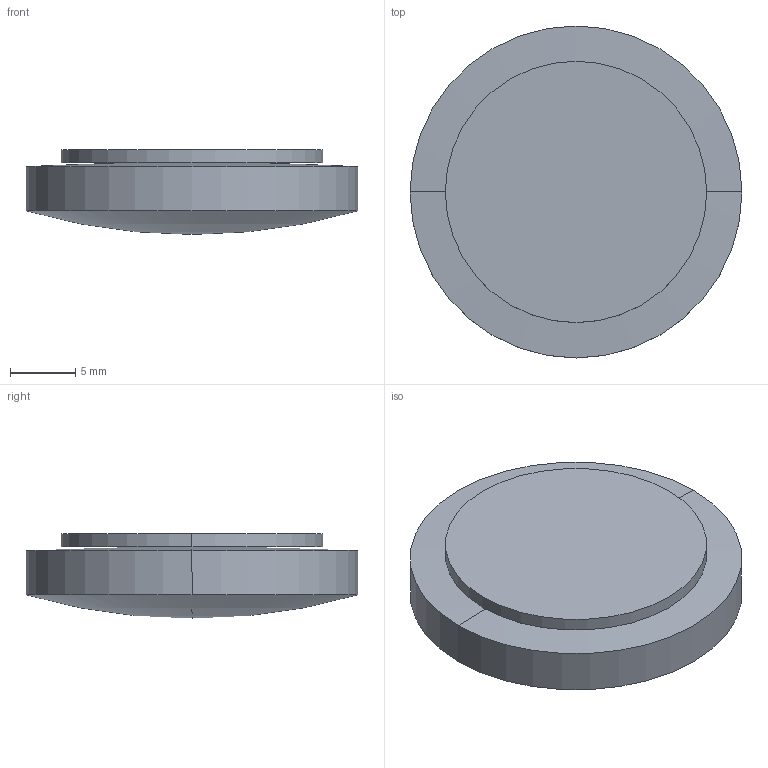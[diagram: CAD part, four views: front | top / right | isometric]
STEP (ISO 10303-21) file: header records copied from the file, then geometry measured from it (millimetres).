
FILE_DESCRIPTION(('STEP AP214'),'1');
FILE_NAME('LLU-25-80.STEP','2020-03-09T17:42:08',(' '),(' '),'Spatial InterOp 3D',' ',' ');
FILE_SCHEMA(('AUTOMOTIVE_DESIGN { 1 0 10303 214 1 1 1 1 }'));
Length unit declared in the file: millimetre
Products named in the file (1): 1
Bounding box: 25.4 x 25.4 x 6.5 mm (x, y, z)
Volume: 2569.8 mm3; surface area: 1985.7 mm2
Topology: 2 solids, 2 shells, 10 faces, 20 edges, 10 vertices
Faces by surface type: sphere 4, cylinder 4, plane 2
Entity records: 255 total; most frequent: DIRECTION 52, CARTESIAN_POINT 38, ORIENTED_EDGE 32, AXIS2_PLACEMENT_3D 24, EDGE_CURVE 16, CIRCLE 12, ADVANCED_FACE 10, FACE_OUTER_BOUND 10
